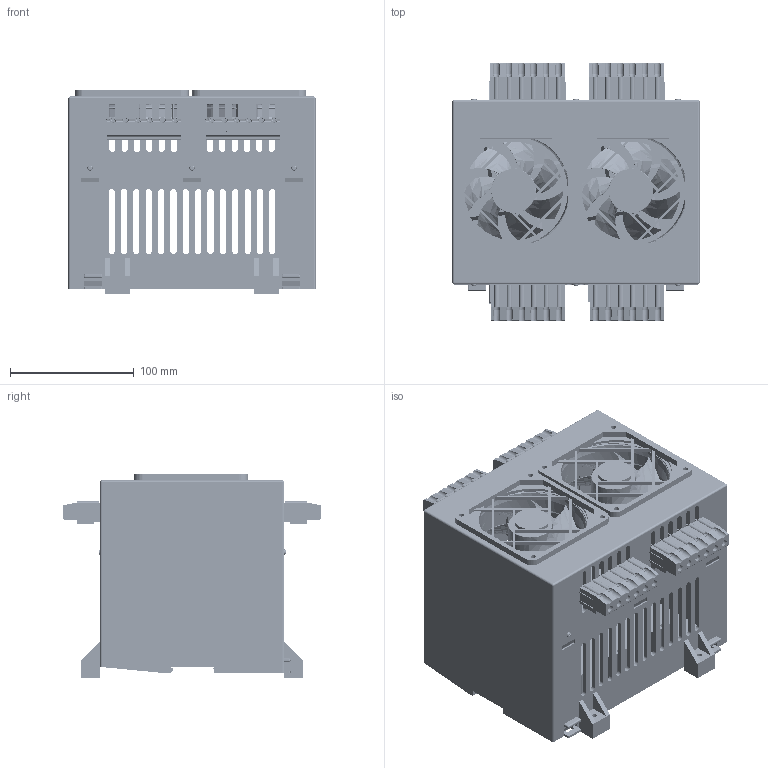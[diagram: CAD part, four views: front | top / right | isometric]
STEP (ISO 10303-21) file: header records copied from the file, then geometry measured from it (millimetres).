
FILE_DESCRIPTION(/* description */ ('','CAx-IF Rec.Pracs.---Representation and Presentation of Product Manufacturing Information (PMI)---4.0---2014-10-13'),/* implementation_level */ '2;1');
FILE_NAME(/* name */ 'AL200.step',/* time_stamp */ '2024-11-25T10:25:34+01:00',/* author */ (''),/* organization */ (''),/* preprocessor_version */ 'ST-DEVELOPER v20',/* originating_system */ 'Autodesk Translation Framework v13.20.0.188',/* authorisation */ '');
FILE_SCHEMA (('AP242_MANAGED_MODEL_BASED_3D_ENGINEERING_MIM_LF { 1 0 10303 442 1 1 4 }'));
Products named in the file (23): AL200; CM200_LG_H_55_BO_DB_GH; CM200_H_55_BO; CM200_GEH_150_BO_DB_GH; PCB_CM200; PCB_13.1; schraub_blech_b2.2x9.5.2; CM_GDH; 1774137 v1; 1774137 v1 (2); 10316900; 1774137 v1 (1); 10316900_1; 1774137 v1 (3); 1774137 v1 (3)_1; 1774137; 1774137 v1 (1)_1; 1774137_1; 1774137 v1_1; 1774137_2; 1774137 v1 (2)_1; 1774137_3; CUI_DEVICES_CFM-9225V-227-320
Assembly tree (36 placements, depth 4):
  AL200
    CM200_LG_H_55_BO_DB_GH
      CM200_H_55_BO
      CM200_GEH_150_BO_DB_GH
      CM_GDH  x4
      schraub_blech_b2.2x9.5.2  x6
      PCB_CM200
        PCB_13.1  x2
    1774137 v1
      1774137_2
    1774137 v1 (2)
      1774137_3
    10316900
    1774137 v1 (1)
      1774137_1
    10316900_1
    1774137 v1 (3)
      1774137
    1774137 v1 (3)_1
      1774137
    1774137 v1 (1)_1
      1774137_1
    1774137 v1_1
      1774137_2
    1774137 v1 (2)_1
      1774137_3
    CUI_DEVICES_CFM-9225V-227-320  x2
Bounding box: 200 x 208.17 x 164.7 mm (x, y, z)
Volume: 808696.7 mm3; surface area: 572710.7 mm2
Topology: 26 solids, 26 shells, 4713 faces, 12737 edges, 8320 vertices
Faces by surface type: plane 2997, cylinder 1190, bspline 230, torus 142, cone 138, sphere 16
Full cylindrical faces by diameter (mm): 0.457 x8, 1 x4, 1.5 x54, 1.6 x48, 2.2 x48, 2.4 x6, 4 x10, 4.1 x8, 4.3 x24, 4.5 x4, 5 x24, 5.6 x24, 10 x2, 36 x2, 88 x3, 89.875 x1
Entity records: 103787 total; most frequent: CARTESIAN_POINT 32089, ORIENTED_EDGE 14824, DIRECTION 14097, EDGE_CURVE 7412, LINE 5201, VECTOR 5201, VERTEX_POINT 4853, AXIS2_PLACEMENT_3D 4448
